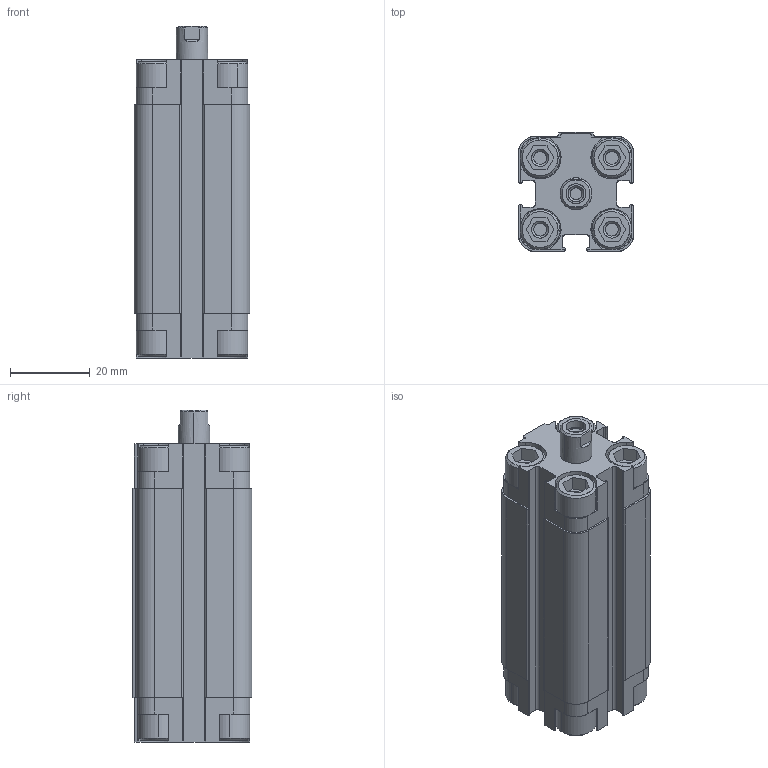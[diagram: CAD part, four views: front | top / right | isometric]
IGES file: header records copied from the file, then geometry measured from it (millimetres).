
Start section: SolidWorks IGES file using analytic representation for surfaces
Global section: file name: K:\Disegni Esecutivi\Cilindri\2_DISEGNI_cilindri_in_produzione\5_Cilindri Compatti\complessivicompatti\QF\QF016\QF016PARTI\QF0160040A.igs; native system: SolidWorks 2011; preprocessor: SolidWorks 2011; author: Cad01; date: 110916.144533; units: millimetre
Bounding box: 29 x 30 x 83.3 mm (x, y, z)
Surface area: 15737.9 mm2 (no closed solid volume)
Topology: 0 solids, 0 shells, 350 faces, 3766 edges, 3762 vertices
Faces by surface type: bspline 191, revolution 159
